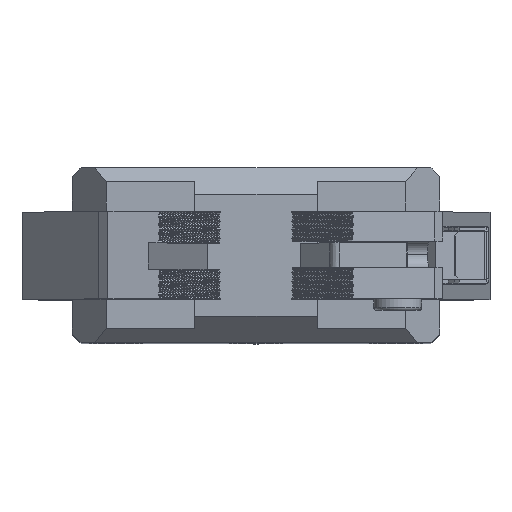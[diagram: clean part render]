
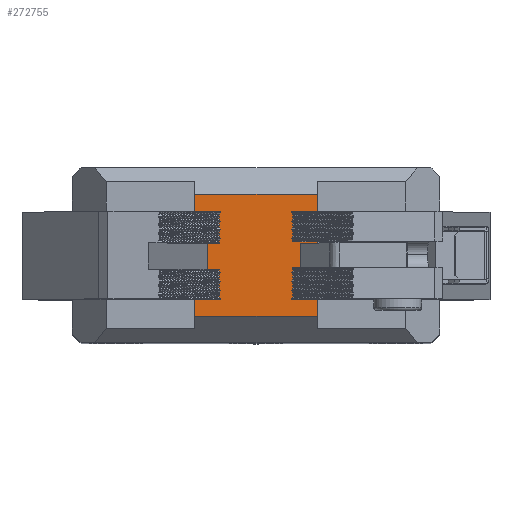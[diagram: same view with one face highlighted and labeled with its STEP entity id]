
A CAD part, top view. The second image highlights one B-rep face of the part: STEP entity #272755.
In plain terms, the highlighted planar face has unit normal (0, 0, 1).
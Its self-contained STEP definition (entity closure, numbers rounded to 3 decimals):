
#1072 = DIRECTION ( 'NONE',  ( -1., 0., 0. ) ) ;
#1904 = PLANE ( 'NONE',  #273239 ) ;
#7616 = CARTESIAN_POINT ( 'NONE',  ( 430.585, -50.299, 47.09 ) ) ;
#11730 = VECTOR ( 'NONE', #214758, 1000. ) ;
#23620 = VERTEX_POINT ( 'NONE', #88107 ) ;
#51184 = CARTESIAN_POINT ( 'NONE',  ( 416.585, -50.299, 47.09 ) ) ;
#51526 = VECTOR ( 'NONE', #299127, 1000. ) ;
#64310 = DIRECTION ( 'NONE',  ( 0., 1., 0. ) ) ;
#64495 = EDGE_CURVE ( 'NONE', #149370, #23620, #190903, .T. ) ;
#88107 = CARTESIAN_POINT ( 'NONE',  ( 416.585, -27.799, 47.09 ) ) ;
#100018 = LINE ( 'NONE', #165542, #224273 ) ;
#102126 = VERTEX_POINT ( 'NONE', #125276 ) ;
#102542 = ORIENTED_EDGE ( 'NONE', *, *, #280537, .T. ) ;
#108997 = VECTOR ( 'NONE', #64310, 1000. ) ;
#119591 = CARTESIAN_POINT ( 'NONE',  ( 430.585, -50.299, 47.09 ) ) ;
#124772 = ORIENTED_EDGE ( 'NONE', *, *, #64495, .F. ) ;
#125276 = CARTESIAN_POINT ( 'NONE',  ( 430.585, -41.799, 47.09 ) ) ;
#136559 = CARTESIAN_POINT ( 'NONE',  ( 416.585, -41.799, 47.09 ) ) ;
#136837 = CARTESIAN_POINT ( 'NONE',  ( 430.585, -41.799, 47.09 ) ) ;
#143026 = DIRECTION ( 'NONE',  ( -1., 0., 0. ) ) ;
#149370 = VERTEX_POINT ( 'NONE', #136559 ) ;
#152333 = FACE_OUTER_BOUND ( 'NONE', #224558, .T. ) ;
#164790 = EDGE_CURVE ( 'NONE', #149370, #102126, #230718, .T. ) ;
#165542 = CARTESIAN_POINT ( 'NONE',  ( 407.585, -27.799, 47.09 ) ) ;
#187207 = VERTEX_POINT ( 'NONE', #203113 ) ;
#190903 = LINE ( 'NONE', #51184, #11730 ) ;
#203113 = CARTESIAN_POINT ( 'NONE',  ( 430.585, -27.799, 47.09 ) ) ;
#207592 = ORIENTED_EDGE ( 'NONE', *, *, #236651, .T. ) ;
#214758 = DIRECTION ( 'NONE',  ( 0., 1., 0. ) ) ;
#218595 = ORIENTED_EDGE ( 'NONE', *, *, #164790, .T. ) ;
#224273 = VECTOR ( 'NONE', #1072, 1000. ) ;
#224558 = EDGE_LOOP ( 'NONE', ( #124772, #218595, #102542, #207592 ) ) ;
#230718 = LINE ( 'NONE', #136837, #51526 ) ;
#233244 = LINE ( 'NONE', #7616, #108997 ) ;
#236651 = EDGE_CURVE ( 'NONE', #187207, #23620, #100018, .T. ) ;
#272755 = ADVANCED_FACE ( 'NONE', ( #152333 ), #1904, .F. ) ;
#273239 = AXIS2_PLACEMENT_3D ( 'NONE', #119591, #282702, #143026 ) ;
#280537 = EDGE_CURVE ( 'NONE', #102126, #187207, #233244, .T. ) ;
#282702 = DIRECTION ( 'NONE',  ( 0., 0., -1. ) ) ;
#299127 = DIRECTION ( 'NONE',  ( 1., 0., 0. ) ) ;
